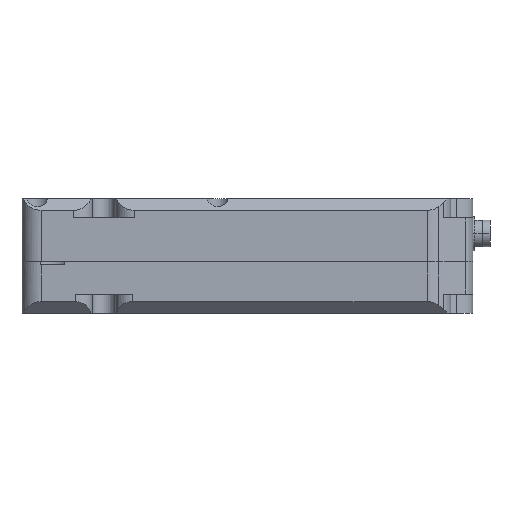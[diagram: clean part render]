
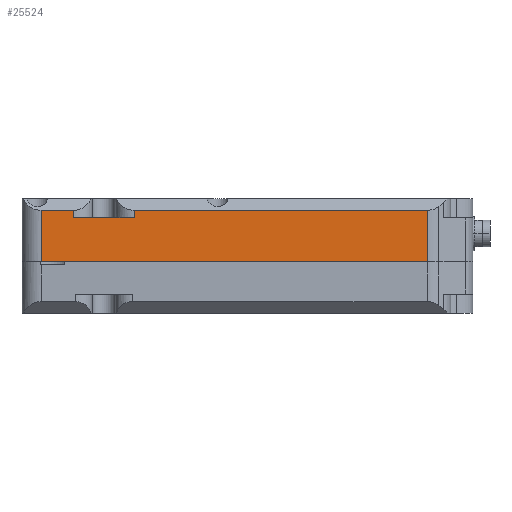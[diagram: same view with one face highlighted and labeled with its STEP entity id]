
A CAD part, front view. The second image highlights one B-rep face of the part: STEP entity #25524.
In plain terms, the highlighted planar face has unit normal (0, -1, 0).
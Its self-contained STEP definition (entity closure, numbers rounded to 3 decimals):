
#2228 = EDGE_LOOP ( 'NONE', ( #23421, #23422, #23423, #23424, #23425, #23426, #23427, #23428 ) ) ;
#4689 = EDGE_CURVE ( 'NONE', #19898, #19745, #26194, .T. ) ;
#6238 = AXIS2_PLACEMENT_3D ( 'NONE', #16018, #16022, #16023 ) ;
#7234 = EDGE_CURVE ( 'NONE', #19956, #19702, #9897, .T. ) ;
#7235 = EDGE_CURVE ( 'NONE', #19932, #19956, #9900, .T. ) ;
#7236 = EDGE_CURVE ( 'NONE', #19932, #19959, #9899, .T. ) ;
#7237 = EDGE_CURVE ( 'NONE', #19959, #19960, #9904, .T. ) ;
#7238 = EDGE_CURVE ( 'NONE', #19960, #19898, #9906, .T. ) ;
#8885 = FACE_OUTER_BOUND ( 'NONE', #2228, .T. ) ;
#9897 = LINE ( 'NONE', #12063, #9901 ) ;
#9899 = LINE ( 'NONE', #12062, #9905 ) ;
#9900 = LINE ( 'NONE', #12067, #9903 ) ;
#9901 = VECTOR ( 'NONE', #12061, 1000. ) ;
#9903 = VECTOR ( 'NONE', #12068, 1000. ) ;
#9904 = LINE ( 'NONE', #12070, #9907 ) ;
#9905 = VECTOR ( 'NONE', #12069, 1000. ) ;
#9906 = LINE ( 'NONE', #12072, #9909 ) ;
#9907 = VECTOR ( 'NONE', #12071, 1000. ) ;
#9909 = VECTOR ( 'NONE', #12073, 1000. ) ;
#10205 = LINE ( 'NONE', #29792, #10212 ) ;
#10212 = VECTOR ( 'NONE', #29793, 1000. ) ;
#10884 = LINE ( 'NONE', #28608, #10890 ) ;
#10890 = VECTOR ( 'NONE', #28609, 1000. ) ;
#12061 = DIRECTION ( 'NONE',  ( 0., 0., 1. ) ) ;
#12062 = CARTESIAN_POINT ( 'NONE',  ( -97.984, 0., -7.814 ) ) ;
#12063 = CARTESIAN_POINT ( 'NONE',  ( -82.016, 0., -7.814 ) ) ;
#12067 = CARTESIAN_POINT ( 'NONE',  ( -97.984, 0., 10. ) ) ;
#12068 = DIRECTION ( 'NONE',  ( 1., 0., 0. ) ) ;
#12069 = DIRECTION ( 'NONE',  ( 0., 0., 1. ) ) ;
#12070 = CARTESIAN_POINT ( 'NONE',  ( -106.5, 0., 12. ) ) ;
#12071 = DIRECTION ( 'NONE',  ( -1., 0., 0. ) ) ;
#12072 = CARTESIAN_POINT ( 'NONE',  ( -106.5, 0., 15. ) ) ;
#12073 = DIRECTION ( 'NONE',  ( 0., 0., -1. ) ) ;
#12745 = EDGE_CURVE ( 'NONE', #19707, #19702, #10205, .T. ) ;
#13178 = EDGE_CURVE ( 'NONE', #19745, #19707, #10884, .T. ) ;
#16018 = CARTESIAN_POINT ( 'NONE',  ( 0., 0., 15. ) ) ;
#16020 = PLANE ( 'NONE',  #6238 ) ;
#16022 = DIRECTION ( 'NONE',  ( 0., 1., 0. ) ) ;
#16023 = DIRECTION ( 'NONE',  ( -1., 0., 0. ) ) ;
#19702 = VERTEX_POINT ( 'NONE', #28897 ) ;
#19707 = VERTEX_POINT ( 'NONE', #28902 ) ;
#19745 = VERTEX_POINT ( 'NONE', #28940 ) ;
#19898 = VERTEX_POINT ( 'NONE', #29093 ) ;
#19932 = VERTEX_POINT ( 'NONE', #29127 ) ;
#19956 = VERTEX_POINT ( 'NONE', #29151 ) ;
#19959 = VERTEX_POINT ( 'NONE', #29154 ) ;
#19960 = VERTEX_POINT ( 'NONE', #29155 ) ;
#23119 = CARTESIAN_POINT ( 'NONE',  ( -111.5, 0., -1.5 ) ) ;
#23121 = DIRECTION ( 'NONE',  ( 1., 0., 0. ) ) ;
#23421 = ORIENTED_EDGE ( 'NONE', *, *, #12745, .T. ) ;
#23422 = ORIENTED_EDGE ( 'NONE', *, *, #7234, .F. ) ;
#23423 = ORIENTED_EDGE ( 'NONE', *, *, #7235, .F. ) ;
#23424 = ORIENTED_EDGE ( 'NONE', *, *, #7236, .T. ) ;
#23425 = ORIENTED_EDGE ( 'NONE', *, *, #7237, .T. ) ;
#23426 = ORIENTED_EDGE ( 'NONE', *, *, #7238, .T. ) ;
#23427 = ORIENTED_EDGE ( 'NONE', *, *, #4689, .T. ) ;
#23428 = ORIENTED_EDGE ( 'NONE', *, *, #13178, .T. ) ;
#25524 = ADVANCED_FACE ( 'NONE', ( #8885 ), #16020, .F. ) ;
#26194 = LINE ( 'NONE', #23119, #26197 ) ;
#26197 = VECTOR ( 'NONE', #23121, 1000. ) ;
#28608 = CARTESIAN_POINT ( 'NONE',  ( -5., 0., 15. ) ) ;
#28609 = DIRECTION ( 'NONE',  ( 0., 0., 1. ) ) ;
#28897 = CARTESIAN_POINT ( 'NONE',  ( -82.016, 0., 12. ) ) ;
#28902 = CARTESIAN_POINT ( 'NONE',  ( -5., 0., 12. ) ) ;
#28940 = CARTESIAN_POINT ( 'NONE',  ( -5., 0., -1.5 ) ) ;
#29093 = CARTESIAN_POINT ( 'NONE',  ( -106.5, 0., -1.5 ) ) ;
#29127 = CARTESIAN_POINT ( 'NONE',  ( -97.984, 0., 10. ) ) ;
#29151 = CARTESIAN_POINT ( 'NONE',  ( -82.016, 0., 10. ) ) ;
#29154 = CARTESIAN_POINT ( 'NONE',  ( -97.984, 0., 12. ) ) ;
#29155 = CARTESIAN_POINT ( 'NONE',  ( -106.5, 0., 12. ) ) ;
#29792 = CARTESIAN_POINT ( 'NONE',  ( -106.5, 0., 12. ) ) ;
#29793 = DIRECTION ( 'NONE',  ( -1., 0., 0. ) ) ;
